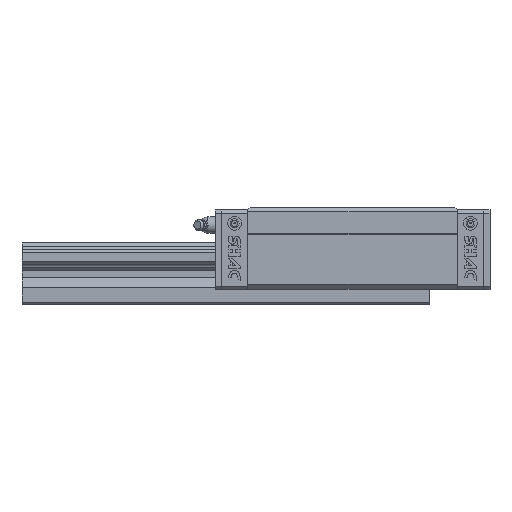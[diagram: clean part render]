
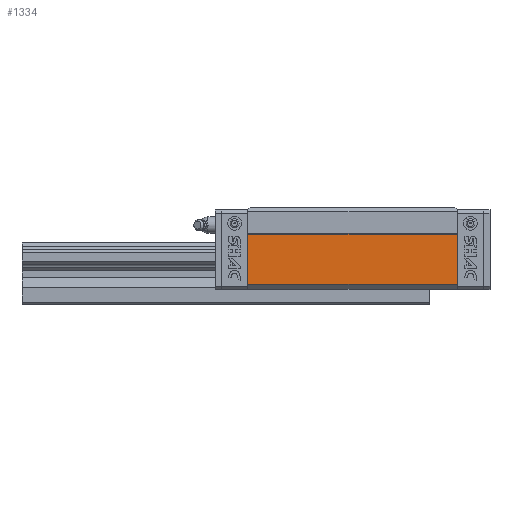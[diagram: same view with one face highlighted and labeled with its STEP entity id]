
A CAD part, top view. The second image highlights one B-rep face of the part: STEP entity #1334.
In plain terms, the highlighted planar face has unit normal (0, 0, 1).
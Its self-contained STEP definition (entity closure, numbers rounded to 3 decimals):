
#1334 = ADVANCED_FACE( '', ( #2754 ), #2755, .F. );
#2754 = FACE_OUTER_BOUND( '', #4310, .T. );
#2755 = PLANE( '', #4311 );
#4310 = EDGE_LOOP( '', ( #7812, #7813, #7814, #7815 ) );
#4311 = AXIS2_PLACEMENT_3D( '', #7816, #7817, #7818 );
#7812 = ORIENTED_EDGE( '', *, *, #9681, .T. );
#7813 = ORIENTED_EDGE( '', *, *, #9990, .F. );
#7814 = ORIENTED_EDGE( '', *, *, #9947, .F. );
#7815 = ORIENTED_EDGE( '', *, *, #10462, .T. );
#7816 = CARTESIAN_POINT( '', ( 64.4, 43.336, 42.336 ) );
#7817 = DIRECTION( '', ( 0., 0., -1. ) );
#7818 = DIRECTION( '', ( -1., 0., 0. ) );
#9681 = EDGE_CURVE( '', #11809, #11807, #11810, .T. );
#9947 = EDGE_CURVE( '', #12211, #12213, #12214, .T. );
#9990 = EDGE_CURVE( '', #12213, #11807, #12283, .T. );
#10462 = EDGE_CURVE( '', #12211, #11809, #12915, .T. );
#11807 = VERTEX_POINT( '', #14799 );
#11809 = VERTEX_POINT( '', #14802 );
#11810 = LINE( '', #14803, #14804 );
#12211 = VERTEX_POINT( '', #15381 );
#12213 = VERTEX_POINT( '', #15384 );
#12214 = LINE( '', #15385, #15386 );
#12283 = LINE( '', #15485, #15486 );
#12915 = LINE( '', #16403, #16404 );
#14799 = CARTESIAN_POINT( '', ( -64.4, 12.525, 42.336 ) );
#14802 = CARTESIAN_POINT( '', ( -64.4, 43.336, 42.336 ) );
#14803 = CARTESIAN_POINT( '', ( -64.4, 43.336, 42.336 ) );
#14804 = VECTOR( '', #17454, 1000. );
#15381 = CARTESIAN_POINT( '', ( 64.4, 43.336, 42.336 ) );
#15384 = CARTESIAN_POINT( '', ( 64.4, 12.525, 42.336 ) );
#15385 = CARTESIAN_POINT( '', ( 64.4, 43.336, 42.336 ) );
#15386 = VECTOR( '', #17733, 1000. );
#15485 = CARTESIAN_POINT( '', ( 64.4, 12.525, 42.336 ) );
#15486 = VECTOR( '', #17779, 1000. );
#16403 = CARTESIAN_POINT( '', ( 64.4, 43.336, 42.336 ) );
#16404 = VECTOR( '', #18206, 1000. );
#17454 = DIRECTION( '', ( 0., -1., 0. ) );
#17733 = DIRECTION( '', ( 0., -1., 0. ) );
#17779 = DIRECTION( '', ( -1., 0., 0. ) );
#18206 = DIRECTION( '', ( -1., 0., 0. ) );
